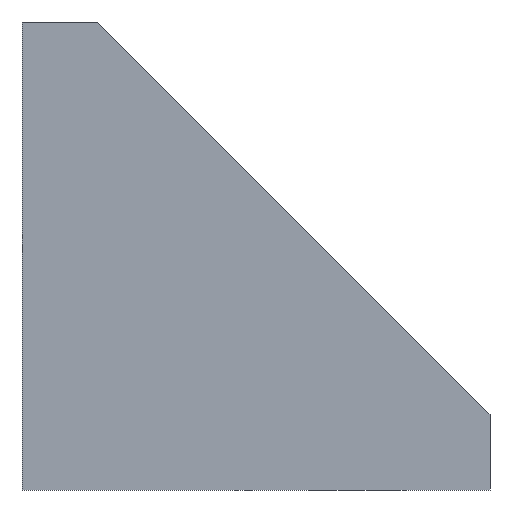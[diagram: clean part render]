
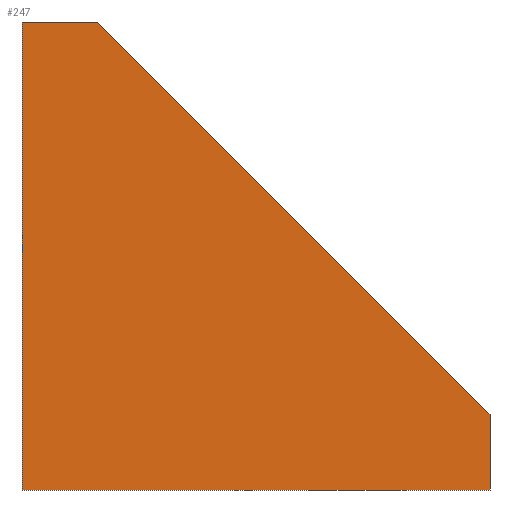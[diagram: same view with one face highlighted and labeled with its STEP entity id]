
A CAD part, left-side view. The second image highlights one B-rep face of the part: STEP entity #247.
In plain terms, the highlighted planar face has unit normal (-1, 0, 0).
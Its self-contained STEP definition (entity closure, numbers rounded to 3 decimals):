
#29=LINE('',#370,#55);
#34=LINE('',#382,#60);
#37=LINE('',#390,#63);
#40=LINE('',#396,#66);
#45=LINE('',#405,#71);
#55=VECTOR('',#304,1000.);
#60=VECTOR('',#313,1000.);
#63=VECTOR('',#320,1000.);
#66=VECTOR('',#325,1000.);
#71=VECTOR('',#334,1000.);
#111=ORIENTED_EDGE('',*,*,#143,.F.);
#112=ORIENTED_EDGE('',*,*,#161,.F.);
#113=ORIENTED_EDGE('',*,*,#156,.F.);
#114=ORIENTED_EDGE('',*,*,#153,.F.);
#115=ORIENTED_EDGE('',*,*,#149,.F.);
#143=EDGE_CURVE('',#172,#173,#29,.T.);
#149=EDGE_CURVE('',#173,#177,#34,.T.);
#153=EDGE_CURVE('',#177,#180,#37,.T.);
#156=EDGE_CURVE('',#180,#182,#40,.T.);
#161=EDGE_CURVE('',#182,#172,#45,.T.);
#172=VERTEX_POINT('',#371);
#173=VERTEX_POINT('',#372);
#177=VERTEX_POINT('',#383);
#180=VERTEX_POINT('',#391);
#182=VERTEX_POINT('',#397);
#199=EDGE_LOOP('',(#111,#112,#113,#114,#115));
#219=FACE_BOUND('',#199,.T.);
#235=PLANE('',#278);
#247=ADVANCED_FACE('',(#219),#235,.F.);
#278=AXIS2_PLACEMENT_3D('',#404,#332,#333);
#304=DIRECTION('',(0.,0.,-1.));
#313=DIRECTION('',(0.,1.,0.));
#320=DIRECTION('',(0.,0.,1.));
#325=DIRECTION('',(0.,-1.,0.));
#332=DIRECTION('',(1.,0.,0.));
#333=DIRECTION('',(0.,0.,-1.));
#334=DIRECTION('',(0.,-0.707,-0.707));
#370=CARTESIAN_POINT('',(-10.,-28.,4.5));
#371=CARTESIAN_POINT('',(-10.,-28.,4.5));
#372=CARTESIAN_POINT('',(-10.,-28.,0.));
#382=CARTESIAN_POINT('',(-10.,-28.,0.));
#383=CARTESIAN_POINT('',(-10.,0.,0.));
#390=CARTESIAN_POINT('',(-10.,0.,0.));
#391=CARTESIAN_POINT('',(-10.,0.,28.));
#396=CARTESIAN_POINT('',(-10.,0.,28.));
#397=CARTESIAN_POINT('',(-10.,-4.5,28.));
#404=CARTESIAN_POINT('',(-10.,0.,0.));
#405=CARTESIAN_POINT('',(-10.,-4.5,28.));
